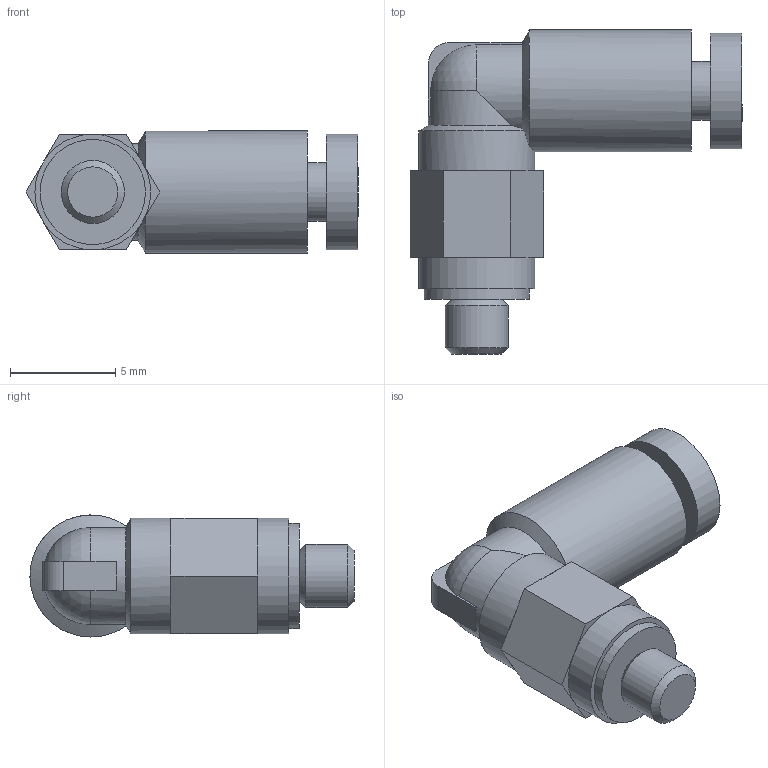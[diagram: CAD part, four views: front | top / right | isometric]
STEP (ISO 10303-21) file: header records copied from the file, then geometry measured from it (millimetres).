
FILE_DESCRIPTION(/* description */ ('STEP AP214'),/* implementation_level */ '2;1');
FILE_NAME(/* name */ 'KQ2L02-M3G',/* time_stamp */ '2023-03-09T07:24:43+01:00',/* author */ ('License CC BY-ND 4.0'),/* organization */ ('CADENAS'),/* preprocessor_version */ 'ST-DEVELOPER v18.102',/* originating_system */ 'PARTsolutions',/* authorisation */ ' ');
FILE_SCHEMA (('AUTOMOTIVE_DESIGN {1 0 10303 214 3 1 1}'));
Length unit declared in the file: millimetre
Products named in the file (1): KQ2L02-M3G
Bounding box: 15.78 x 15.4 x 5.8 mm (x, y, z)
Volume: 495.6 mm3; surface area: 578.5 mm2
Topology: 1 solids, 1 shells, 49 faces, 109 edges, 67 vertices
Faces by surface type: plane 31, cylinder 12, cone 4, sphere 2
Full cylindrical faces by diameter (mm): 2 x1, 2.8 x1, 3 x1, 5 x1, 5.5 x3, 5.8 x1
Entity records: 1323 total; most frequent: CARTESIAN_POINT 243, DIRECTION 230, ORIENTED_EDGE 194, EDGE_CURVE 97, AXIS2_PLACEMENT_3D 93, VERTEX_POINT 65, EDGE_LOOP 64, FACE_BOUND 64
